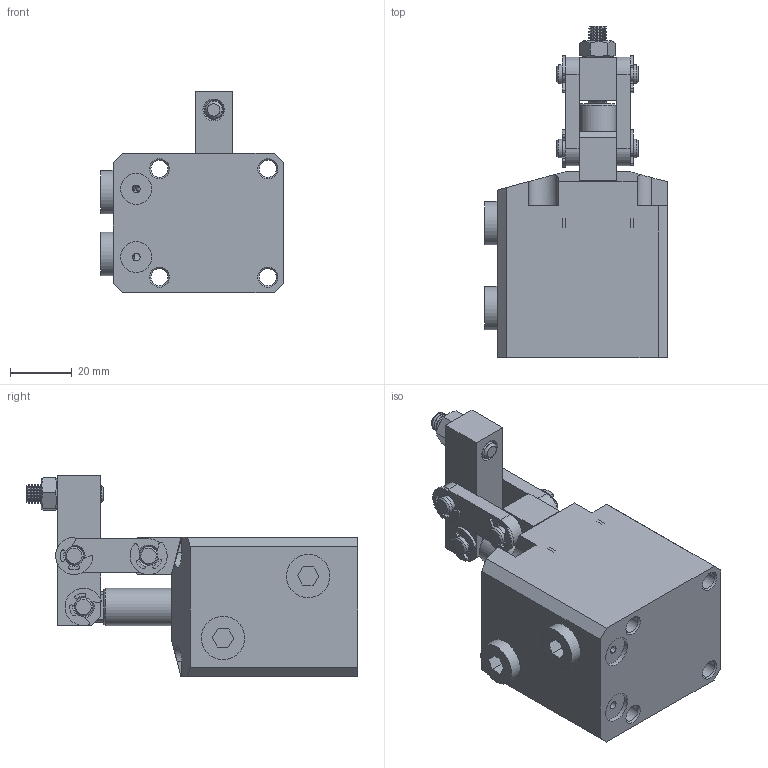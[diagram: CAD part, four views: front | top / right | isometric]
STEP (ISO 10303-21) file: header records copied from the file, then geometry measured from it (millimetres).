
FILE_DESCRIPTION(/* description */ ('STEP AP203'),/* implementation_level */ '2;1');
FILE_NAME(/* name */ 'D:\Vault_2016\Projekty\Clamptek\Hydraulic\CBLU\CBLU-25\STEP\CBLU-25GR.stp',/* time_stamp */ '2021-05-06T11:58:05+02:00',/* author */ ('user'),/* organization */ (''),/* preprocessor_version */ 'ST-DEVELOPER v18.1',/* originating_system */ 'Autodesk Inventor 2021',/* authorisation */ '');
FILE_SCHEMA (('AUTOMOTIVE_DESIGN { 1 0 10303 214 3 1 1 }'));
Length unit declared in the file: millimetre
Products named in the file (11): CBLU-25GR; CR±¾Ìå_1_1; »îÈû¸Ë_1_1; Ñ¹±Û_1; Á¬¸Ë_1; hex nuts, style 1-grades ab gb_GB_FASTENER_NUT_SNAB1 M6-N_1; ¶ÌÏúÖá_1; socket set screw flat point_iso2_ISO 4026 - M6 x 4-S_1; ³¤ÏúÖá_1; e rings gb_GB_CONNECTING_PIECE_RINGS_HR 6_1; ÄÚÁù½Ç¶ÂÍ·×
îÐÂ_1
Assembly tree (21 placements, depth 2):
  CBLU-25GR
    CR±¾Ìå_1_1
    »îÈû¸Ë_1_1
    Ñ¹±Û_1
    Á¬¸Ë_1  x2
    hex nuts, style 1-grades ab gb_GB_FASTENER_NUT_SNAB1 M6-N_1
    e rings gb_GB_CONNECTING_PIECE_RINGS_HR 6_1  x9
    ³¤ÏúÖá_1  x2
    ¶ÌÏúÖá_1
    socket set screw flat point_iso2_ISO 4026 - M6 x 4-S_1
    ÄÚÁù½Ç¶ÂÍ·×
îÐÂ_1  x2
Bounding box: 59 x 107 x 65 mm (x, y, z)
Volume: 141578.8 mm3; surface area: 41805.6 mm2
Topology: 24 solids, 24 shells, 518 faces, 1303 edges, 856 vertices
Faces by surface type: cylinder 216, plane 201, cone 94, bspline 5, torus 2
Full cylindrical faces by diameter (mm): 2 x2, 2.5 x1, 4.917 x1, 5 x6, 5.5 x4, 6 x63, 9 x4, 10 x2, 12 x2, 14 x2, 19.222 x1, 20 x1, 25 x1, 30 x1, 32 x1
Entity records: 24465 total; most frequent: CARTESIAN_POINT 16178, DIRECTION 1739, ORIENTED_EDGE 1588, EDGE_CURVE 794, AXIS2_PLACEMENT_3D 674, VERTEX_POINT 518, LINE 391, VECTOR 391
